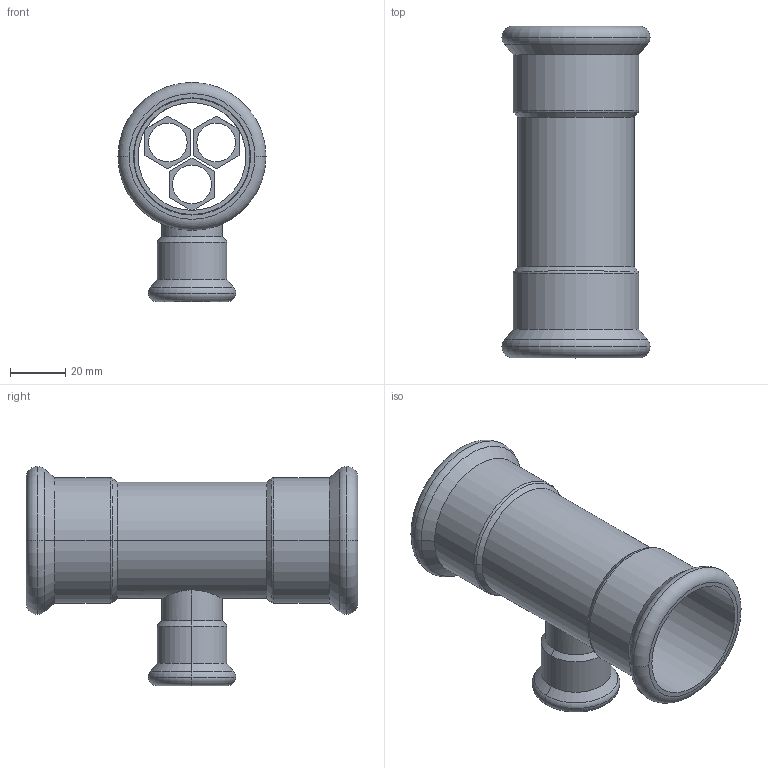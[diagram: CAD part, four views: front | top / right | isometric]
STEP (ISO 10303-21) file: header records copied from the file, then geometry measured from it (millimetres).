
FILE_DESCRIPTION(('OneSpaceDesigner STEP Export'),'2;1');
FILE_NAME('R2715 42x22x42.stp','2010-06-10T 9:05:37',(''),(''),'OneSpace Designer STEP processor for AP214 (Solid Model)','OneSpace Modeling 15.00A 14-Mar-2007 (C) CoCreate Software GmbH','');
FILE_SCHEMA(('AUTOMOTIVE_DESIGN { 1 0 10303 214 1 1 1 1 }'));
Length unit declared in the file: millimetre
Products named in the file (2): R2715_42x22x42
Assembly tree (1 placements, depth 2):
  R2715_42x22x42
    R2715_42x22x42
Bounding box: 53.55 x 120 x 79.28 mm (x, y, z)
Volume: 39852.5 mm3; surface area: 42865.2 mm2
Topology: 1 solids, 1 shells, 172 faces, 427 edges, 274 vertices
Faces by surface type: plane 90, cylinder 54, torus 16, cone 12
Entity records: 5654 total; most frequent: CARTESIAN_POINT 1845, ORIENTED_EDGE 854, DIRECTION 675, EDGE_CURVE 427, VERTEX_POINT 274, VECTOR 263, LINE 263, EDGE_LOOP 209
